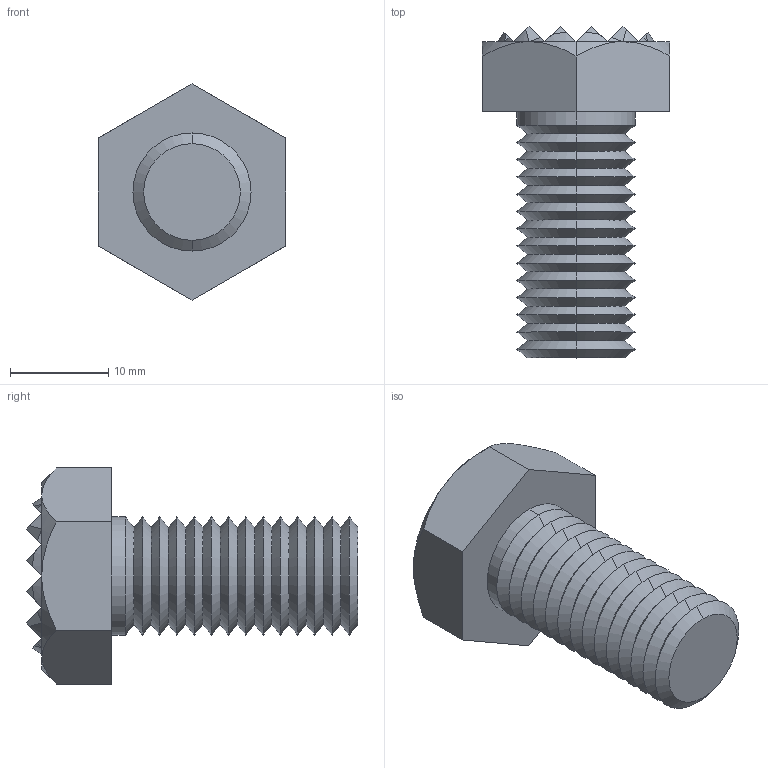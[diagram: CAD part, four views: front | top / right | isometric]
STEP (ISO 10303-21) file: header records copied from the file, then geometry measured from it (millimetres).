
FILE_DESCRIPTION (( 'STEP AP203' ), '1' );
FILE_NAME ('35400.W0009.step', '2017-07-03T07:21:40', ( 'User' ), ( '' ), 'SwSTEP 2.0', 'SolidWorks 2009', '' );
FILE_SCHEMA (( 'CONFIG_CONTROL_DESIGN' ));
Length unit declared in the file: millimetre
Products named in the file (1): 35400.W0009
Bounding box: 19 x 33.7 x 21.94 mm (x, y, z)
Volume: 4678.2 mm3; surface area: 2472.5 mm2
Topology: 1 solids, 1 shells, 196 faces, 354 edges, 162 vertices
Faces by surface type: plane 113, cone 81, cylinder 2
Entity records: 4603 total; most frequent: CARTESIAN_POINT 940, DIRECTION 773, ORIENTED_EDGE 708, EDGE_CURVE 354, AXIS2_PLACEMENT_3D 282, VECTOR 209, LINE 209, EDGE_LOOP 198
